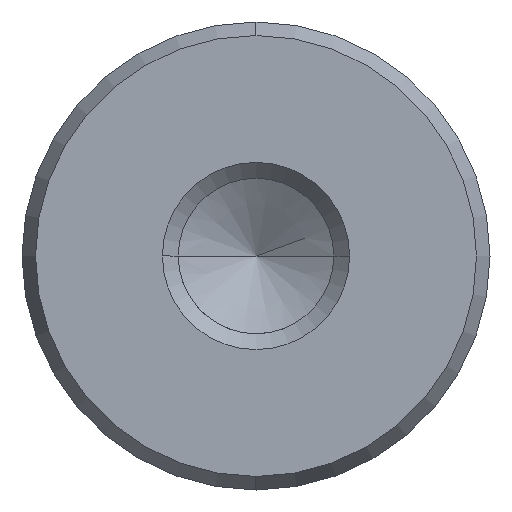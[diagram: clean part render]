
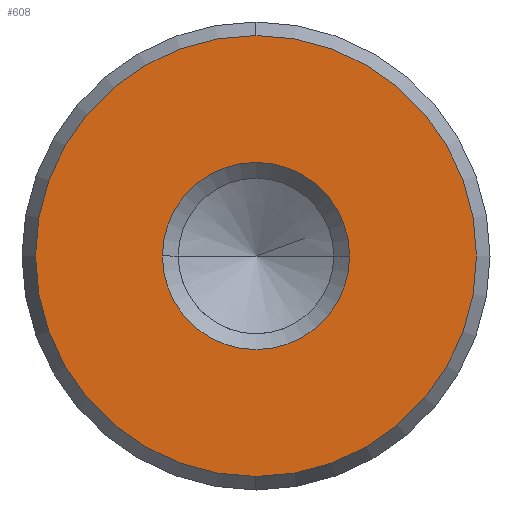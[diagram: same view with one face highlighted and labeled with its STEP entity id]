
A CAD part, left-side view. The second image highlights one B-rep face of the part: STEP entity #608.
In plain terms, the highlighted planar face has unit normal (-1, 0, 0).
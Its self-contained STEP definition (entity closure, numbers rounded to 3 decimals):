
#522=CARTESIAN_POINT('Vertex',(0.,0.,-9.423)) ;
#525=CARTESIAN_POINT('Axis2P3D Location',(0.,0.,0.)) ;
#529=CARTESIAN_POINT('Vertex',(0.,9.423,0.)) ;
#532=CARTESIAN_POINT('Axis2P3D Location',(0.,0.,0.)) ;
#536=CARTESIAN_POINT('Vertex',(0.,0.,9.423)) ;
#558=CARTESIAN_POINT('Axis2P3D Location',(0.,0.,0.)) ;
#562=CARTESIAN_POINT('Vertex',(0.,-9.423,0.)) ;
#565=CARTESIAN_POINT('Axis2P3D Location',(0.,0.,0.)) ;
#579=CARTESIAN_POINT('Axis2P3D Location',(0.,0.,0.)) ;
#590=CARTESIAN_POINT('Axis2P3D Location',(0.,0.,0.)) ;
#594=CARTESIAN_POINT('Vertex',(0.,4.,0.)) ;
#596=CARTESIAN_POINT('Vertex',(0.,-4.,0.)) ;
#599=CARTESIAN_POINT('Axis2P3D Location',(0.,0.,0.)) ;
#526=DIRECTION('Axis2P3D Direction',(1.,0.,-0.)) ;
#533=DIRECTION('Axis2P3D Direction',(1.,0.,-0.)) ;
#559=DIRECTION('Axis2P3D Direction',(1.,0.,-0.)) ;
#566=DIRECTION('Axis2P3D Direction',(1.,0.,-0.)) ;
#580=DIRECTION('Axis2P3D Direction',(1.,0.,-0.)) ;
#581=DIRECTION('Axis2P3D XDirection',(-0.,0.,-1.)) ;
#591=DIRECTION('Axis2P3D Direction',(1.,0.,-0.)) ;
#600=DIRECTION('Axis2P3D Direction',(1.,0.,-0.)) ;
#527=AXIS2_PLACEMENT_3D('Circle Axis2P3D',#525,#526,$) ;
#534=AXIS2_PLACEMENT_3D('Circle Axis2P3D',#532,#533,$) ;
#560=AXIS2_PLACEMENT_3D('Circle Axis2P3D',#558,#559,$) ;
#567=AXIS2_PLACEMENT_3D('Circle Axis2P3D',#565,#566,$) ;
#582=AXIS2_PLACEMENT_3D('Plane Axis2P3D',#579,#580,#581) ;
#592=AXIS2_PLACEMENT_3D('Circle Axis2P3D',#590,#591,$) ;
#601=AXIS2_PLACEMENT_3D('Circle Axis2P3D',#599,#600,$) ;
#585=ORIENTED_EDGE('',*,*,#531,.F.) ;
#586=ORIENTED_EDGE('',*,*,#569,.F.) ;
#587=ORIENTED_EDGE('',*,*,#564,.F.) ;
#588=ORIENTED_EDGE('',*,*,#538,.F.) ;
#605=ORIENTED_EDGE('',*,*,#598,.T.) ;
#606=ORIENTED_EDGE('',*,*,#603,.T.) ;
#607=FACE_BOUND('',#604,.T.) ;
#608=ADVANCED_FACE('720-20x180',(#589,#607),#583,.F.) ;
#528=CIRCLE('generated circle',#527,9.423) ;
#535=CIRCLE('generated circle',#534,9.423) ;
#561=CIRCLE('generated circle',#560,9.423) ;
#568=CIRCLE('generated circle',#567,9.423) ;
#593=CIRCLE('generated circle',#592,4.) ;
#602=CIRCLE('generated circle',#601,4.) ;
#531=EDGE_CURVE('',#523,#530,#528,.T.) ;
#538=EDGE_CURVE('',#530,#537,#535,.T.) ;
#564=EDGE_CURVE('',#537,#563,#561,.T.) ;
#569=EDGE_CURVE('',#563,#523,#568,.T.) ;
#598=EDGE_CURVE('',#595,#597,#593,.T.) ;
#603=EDGE_CURVE('',#597,#595,#602,.T.) ;
#584=EDGE_LOOP('',(#585,#586,#587,#588)) ;
#604=EDGE_LOOP('',(#605,#606)) ;
#589=FACE_OUTER_BOUND('',#584,.T.) ;
#583=PLANE('Plane',#582) ;
#523=VERTEX_POINT('',#522) ;
#530=VERTEX_POINT('',#529) ;
#537=VERTEX_POINT('',#536) ;
#563=VERTEX_POINT('',#562) ;
#595=VERTEX_POINT('',#594) ;
#597=VERTEX_POINT('',#596) ;
